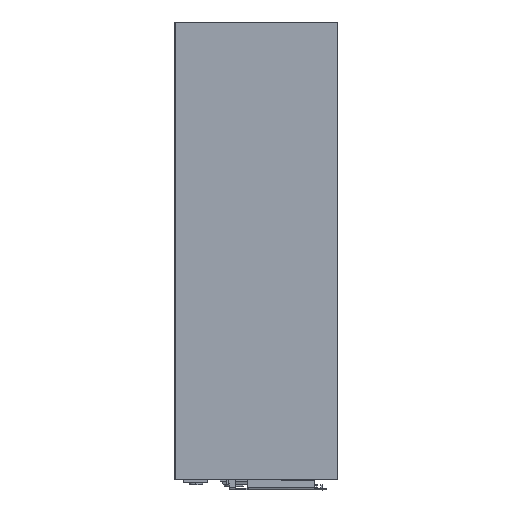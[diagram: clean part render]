
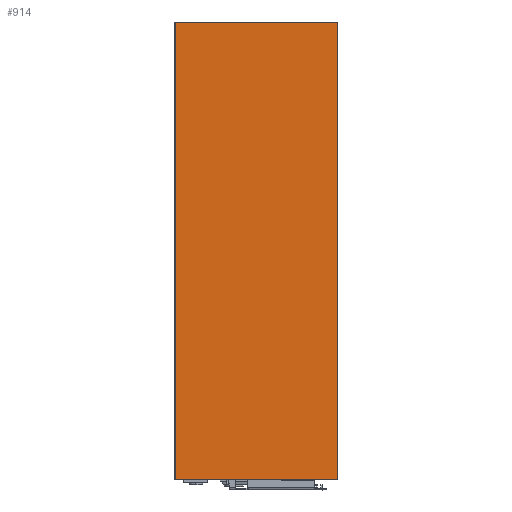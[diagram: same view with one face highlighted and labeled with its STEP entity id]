
A CAD part, left-side view. The second image highlights one B-rep face of the part: STEP entity #914.
In plain terms, the highlighted planar face has unit normal (-1, 0, 0).
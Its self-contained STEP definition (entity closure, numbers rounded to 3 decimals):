
#180 = CARTESIAN_POINT ( 'NONE',  ( 2.5, 91.5, 0. ) ) ;
#228 = EDGE_LOOP ( 'NONE', ( #1027, #532, #1794, #3128 ) ) ;
#470 = CARTESIAN_POINT ( 'NONE',  ( 2.5, -29., 0. ) ) ;
#532 = ORIENTED_EDGE ( 'NONE', *, *, #2213, .T. ) ;
#537 = VECTOR ( 'NONE', #3117, 1000. ) ;
#670 = DIRECTION ( 'NONE',  ( 0., -1., 0. ) ) ;
#777 = AXIS2_PLACEMENT_3D ( 'NONE', #3107, #1725, #2500 ) ;
#832 = VERTEX_POINT ( 'NONE', #180 ) ;
#914 = ADVANCED_FACE ( 'NONE', ( #1796 ), #3345, .F. ) ;
#932 = EDGE_CURVE ( 'NONE', #2218, #3418, #2518, .T. ) ;
#1017 = LINE ( 'NONE', #470, #2540 ) ;
#1027 = ORIENTED_EDGE ( 'NONE', *, *, #1142, .F. ) ;
#1063 = DIRECTION ( 'NONE',  ( 0., 0., -1. ) ) ;
#1142 = EDGE_CURVE ( 'NONE', #1475, #3418, #3454, .T. ) ;
#1249 = CARTESIAN_POINT ( 'NONE',  ( 2.5, 91.9, -340. ) ) ;
#1462 = DIRECTION ( 'NONE',  ( 0., 1., 0. ) ) ;
#1475 = VERTEX_POINT ( 'NONE', #2595 ) ;
#1545 = CARTESIAN_POINT ( 'NONE',  ( 2.5, -29., -340. ) ) ;
#1610 = CARTESIAN_POINT ( 'NONE',  ( 2.5, -29., 0. ) ) ;
#1725 = DIRECTION ( 'NONE',  ( 1., 0., 0. ) ) ;
#1794 = ORIENTED_EDGE ( 'NONE', *, *, #2319, .T. ) ;
#1796 = FACE_OUTER_BOUND ( 'NONE', #228, .T. ) ;
#1844 = CARTESIAN_POINT ( 'NONE',  ( 2.5, 91.5, -340. ) ) ;
#2213 = EDGE_CURVE ( 'NONE', #1475, #832, #1017, .T. ) ;
#2218 = VERTEX_POINT ( 'NONE', #1844 ) ;
#2319 = EDGE_CURVE ( 'NONE', #832, #2218, #2670, .T. ) ;
#2483 = VECTOR ( 'NONE', #670, 1000. ) ;
#2500 = DIRECTION ( 'NONE',  ( 0., -1., 0. ) ) ;
#2518 = LINE ( 'NONE', #1249, #2483 ) ;
#2540 = VECTOR ( 'NONE', #1462, 1000. ) ;
#2595 = CARTESIAN_POINT ( 'NONE',  ( 2.5, -29., 0. ) ) ;
#2670 = LINE ( 'NONE', #2840, #537 ) ;
#2713 = VECTOR ( 'NONE', #1063, 1000. ) ;
#2840 = CARTESIAN_POINT ( 'NONE',  ( 2.5, 91.5, 0. ) ) ;
#3107 = CARTESIAN_POINT ( 'NONE',  ( 2.5, -29., 0. ) ) ;
#3117 = DIRECTION ( 'NONE',  ( 0., 0., -1. ) ) ;
#3128 = ORIENTED_EDGE ( 'NONE', *, *, #932, .T. ) ;
#3345 = PLANE ( 'NONE',  #777 ) ;
#3418 = VERTEX_POINT ( 'NONE', #1545 ) ;
#3454 = LINE ( 'NONE', #1610, #2713 ) ;
